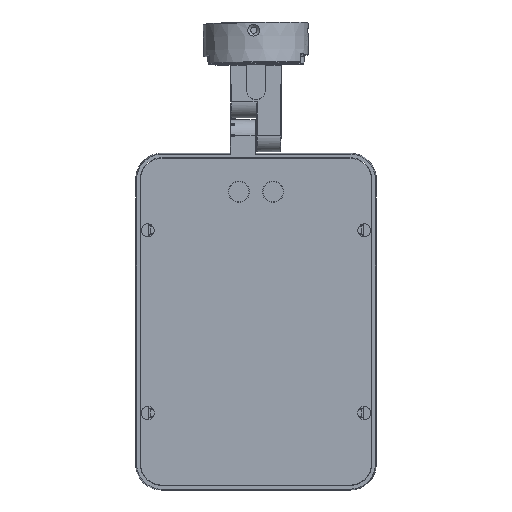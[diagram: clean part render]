
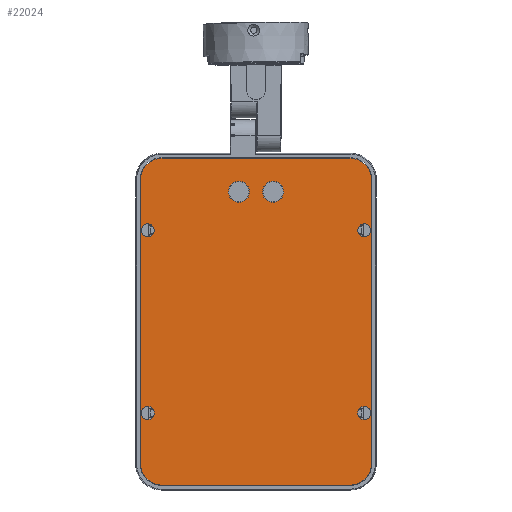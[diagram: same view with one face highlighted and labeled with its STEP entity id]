
A CAD part, front view. The second image highlights one B-rep face of the part: STEP entity #22024.
In plain terms, the highlighted planar face has unit normal (0, -1, 0).
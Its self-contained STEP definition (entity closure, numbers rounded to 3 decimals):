
#9723=CARTESIAN_POINT('',(67.5,0.5,57.));
#9724=DIRECTION('',(0.,-1.,0.));
#9725=DIRECTION('',(1.,0.,0.));
#9726=AXIS2_PLACEMENT_3D('',#9723,#9724,#9725);
#9728=CARTESIAN_POINT('',(67.5,0.5,57.));
#9729=DIRECTION('',(0.,-1.,0.));
#9730=DIRECTION('',(-1.,0.,0.));
#9731=AXIS2_PLACEMENT_3D('',#9728,#9729,#9730);
#9733=CARTESIAN_POINT('',(-67.5,0.5,-57.));
#9734=DIRECTION('',(0.,-1.,0.));
#9735=DIRECTION('',(-1.,0.,0.));
#9736=AXIS2_PLACEMENT_3D('',#9733,#9734,#9735);
#9738=CARTESIAN_POINT('',(-67.5,0.5,-57.));
#9739=DIRECTION('',(0.,-1.,0.));
#9740=DIRECTION('',(1.,0.,0.));
#9741=AXIS2_PLACEMENT_3D('',#9738,#9739,#9740);
#9743=CARTESIAN_POINT('',(-67.5,0.5,57.));
#9744=DIRECTION('',(0.,-1.,0.));
#9745=DIRECTION('',(1.,0.,0.));
#9746=AXIS2_PLACEMENT_3D('',#9743,#9744,#9745);
#9748=CARTESIAN_POINT('',(-67.5,0.5,57.));
#9749=DIRECTION('',(0.,-1.,0.));
#9750=DIRECTION('',(-1.,0.,0.));
#9751=AXIS2_PLACEMENT_3D('',#9748,#9749,#9750);
#9753=CARTESIAN_POINT('',(67.5,0.5,-57.));
#9754=DIRECTION('',(0.,-1.,0.));
#9755=DIRECTION('',(-1.,0.,0.));
#9756=AXIS2_PLACEMENT_3D('',#9753,#9754,#9755);
#9758=CARTESIAN_POINT('',(67.5,0.5,-57.));
#9759=DIRECTION('',(0.,-1.,0.));
#9760=DIRECTION('',(1.,0.,0.));
#9761=AXIS2_PLACEMENT_3D('',#9758,#9759,#9760);
#9763=CARTESIAN_POINT('',(58.5,0.5,-88.5));
#9764=DIRECTION('',(0.,1.,0.));
#9765=DIRECTION('',(1.,0.,0.));
#9766=AXIS2_PLACEMENT_3D('',#9763,#9764,#9765);
#9768=DIRECTION('',(-1.,0.,0.));
#9769=VECTOR('',#9768,117.);
#9770=CARTESIAN_POINT('',(58.5,0.5,-102.));
#9771=LINE('',#9770,#9769);
#9772=CARTESIAN_POINT('',(-58.5,0.5,-88.5));
#9773=DIRECTION('',(0.,1.,0.));
#9774=DIRECTION('',(0.,0.,-1.));
#9775=AXIS2_PLACEMENT_3D('',#9772,#9773,#9774);
#9777=DIRECTION('',(0.,0.,1.));
#9778=VECTOR('',#9777,177.);
#9779=CARTESIAN_POINT('',(-72.,0.5,-88.5));
#9780=LINE('',#9779,#9778);
#9781=CARTESIAN_POINT('',(-58.5,0.5,88.5));
#9782=DIRECTION('',(0.,1.,0.));
#9783=DIRECTION('',(-1.,0.,0.));
#9784=AXIS2_PLACEMENT_3D('',#9781,#9782,#9783);
#9786=DIRECTION('',(1.,0.,0.));
#9787=VECTOR('',#9786,117.);
#9788=CARTESIAN_POINT('',(-58.5,0.5,102.));
#9789=LINE('',#9788,#9787);
#9790=CARTESIAN_POINT('',(58.5,0.5,88.5));
#9791=DIRECTION('',(0.,1.,0.));
#9792=DIRECTION('',(0.,0.,1.));
#9793=AXIS2_PLACEMENT_3D('',#9790,#9791,#9792);
#9795=DIRECTION('',(0.,0.,-1.));
#9796=VECTOR('',#9795,177.);
#9797=CARTESIAN_POINT('',(72.,0.5,88.5));
#9798=LINE('',#9797,#9796);
#9799=CARTESIAN_POINT('',(-10.65,0.5,81.));
#9800=DIRECTION('',(0.,-1.,0.));
#9801=DIRECTION('',(1.,0.,0.));
#9802=AXIS2_PLACEMENT_3D('',#9799,#9800,#9801);
#9804=CARTESIAN_POINT('',(-10.65,0.5,81.));
#9805=DIRECTION('',(0.,-1.,0.));
#9806=DIRECTION('',(-1.,0.,0.));
#9807=AXIS2_PLACEMENT_3D('',#9804,#9805,#9806);
#9809=CARTESIAN_POINT('',(10.65,0.5,81.));
#9810=DIRECTION('',(0.,-1.,0.));
#9811=DIRECTION('',(1.,0.,0.));
#9812=AXIS2_PLACEMENT_3D('',#9809,#9810,#9811);
#9814=CARTESIAN_POINT('',(10.65,0.5,81.));
#9815=DIRECTION('',(0.,-1.,0.));
#9816=DIRECTION('',(-1.,0.,0.));
#9817=AXIS2_PLACEMENT_3D('',#9814,#9815,#9816);
#19258=CARTESIAN_POINT('',(71.55,0.5,57.));
#19259=CARTESIAN_POINT('',(63.45,0.5,57.));
#19260=VERTEX_POINT('',#19258);
#19261=VERTEX_POINT('',#19259);
#19262=CARTESIAN_POINT('',(58.5,0.5,-102.));
#19263=CARTESIAN_POINT('',(72.,0.5,-88.5));
#19264=VERTEX_POINT('',#19262);
#19265=VERTEX_POINT('',#19263);
#19266=CARTESIAN_POINT('',(72.,0.5,88.5));
#19267=VERTEX_POINT('',#19266);
#19268=CARTESIAN_POINT('',(58.5,0.5,102.));
#19269=VERTEX_POINT('',#19268);
#19270=CARTESIAN_POINT('',(-58.5,0.5,102.));
#19271=VERTEX_POINT('',#19270);
#19272=CARTESIAN_POINT('',(-72.,0.5,88.5));
#19273=VERTEX_POINT('',#19272);
#19274=CARTESIAN_POINT('',(-72.,0.5,-88.5));
#19275=VERTEX_POINT('',#19274);
#19276=CARTESIAN_POINT('',(-58.5,0.5,-102.));
#19277=VERTEX_POINT('',#19276);
#19294=CARTESIAN_POINT('',(-71.55,0.5,-57.));
#19295=CARTESIAN_POINT('',(-63.45,0.5,-57.));
#19296=VERTEX_POINT('',#19294);
#19297=VERTEX_POINT('',#19295);
#19298=CARTESIAN_POINT('',(-71.55,0.5,57.));
#19299=CARTESIAN_POINT('',(-63.45,0.5,57.));
#19300=VERTEX_POINT('',#19298);
#19301=VERTEX_POINT('',#19299);
#19302=CARTESIAN_POINT('',(71.55,0.5,-57.));
#19303=CARTESIAN_POINT('',(63.45,0.5,-57.));
#19304=VERTEX_POINT('',#19302);
#19305=VERTEX_POINT('',#19303);
#19577=CARTESIAN_POINT('',(-17.2,0.5,81.));
#19578=CARTESIAN_POINT('',(-4.1,0.5,81.));
#19579=VERTEX_POINT('',#19577);
#19580=VERTEX_POINT('',#19578);
#19581=CARTESIAN_POINT('',(4.1,0.5,81.));
#19582=CARTESIAN_POINT('',(17.2,0.5,81.));
#19583=VERTEX_POINT('',#19581);
#19584=VERTEX_POINT('',#19582);
#21965=CARTESIAN_POINT('',(0.,0.5,0.));
#21966=DIRECTION('',(0.,1.,0.));
#21967=DIRECTION('',(1.,0.,0.));
#21968=AXIS2_PLACEMENT_3D('',#21965,#21966,#21967);
#21969=PLANE('',#21968);
#21971=ORIENTED_EDGE('',*,*,#21970,.T.);
#21973=ORIENTED_EDGE('',*,*,#21972,.T.);
#21975=ORIENTED_EDGE('',*,*,#21974,.T.);
#21977=ORIENTED_EDGE('',*,*,#21976,.T.);
#21979=ORIENTED_EDGE('',*,*,#21978,.T.);
#21981=ORIENTED_EDGE('',*,*,#21980,.T.);
#21983=ORIENTED_EDGE('',*,*,#21982,.T.);
#21985=ORIENTED_EDGE('',*,*,#21984,.T.);
#21986=EDGE_LOOP('',(#21971,#21973,#21975,#21977,#21979,#21981,#21983,#21985));
#21987=FACE_OUTER_BOUND('',#21986,.F.);
#21989=ORIENTED_EDGE('',*,*,#21988,.T.);
#21991=ORIENTED_EDGE('',*,*,#21990,.T.);
#21992=EDGE_LOOP('',(#21989,#21991));
#21993=FACE_BOUND('',#21992,.F.);
#21995=ORIENTED_EDGE('',*,*,#21994,.T.);
#21997=ORIENTED_EDGE('',*,*,#21996,.T.);
#21998=EDGE_LOOP('',(#21995,#21997));
#21999=FACE_BOUND('',#21998,.F.);
#22001=ORIENTED_EDGE('',*,*,#22000,.T.);
#22003=ORIENTED_EDGE('',*,*,#22002,.T.);
#22004=EDGE_LOOP('',(#22001,#22003));
#22005=FACE_BOUND('',#22004,.F.);
#22007=ORIENTED_EDGE('',*,*,#22006,.T.);
#22009=ORIENTED_EDGE('',*,*,#22008,.T.);
#22010=EDGE_LOOP('',(#22007,#22009));
#22011=FACE_BOUND('',#22010,.F.);
#22013=ORIENTED_EDGE('',*,*,#22012,.T.);
#22015=ORIENTED_EDGE('',*,*,#22014,.T.);
#22016=EDGE_LOOP('',(#22013,#22015));
#22017=FACE_BOUND('',#22016,.F.);
#22019=ORIENTED_EDGE('',*,*,#22018,.T.);
#22021=ORIENTED_EDGE('',*,*,#22020,.T.);
#22022=EDGE_LOOP('',(#22019,#22021));
#22023=FACE_BOUND('',#22022,.F.);
#22024=ADVANCED_FACE('',(#21987,#21993,#21999,#22005,#22011,#22017,#22023),
#21969,.F.);
#9727=CIRCLE('',#9726,4.05);
#9732=CIRCLE('',#9731,4.05);
#9737=CIRCLE('',#9736,4.05);
#9742=CIRCLE('',#9741,4.05);
#9747=CIRCLE('',#9746,4.05);
#9752=CIRCLE('',#9751,4.05);
#9757=CIRCLE('',#9756,4.05);
#9762=CIRCLE('',#9761,4.05);
#9767=CIRCLE('',#9766,13.5);
#9776=CIRCLE('',#9775,13.5);
#9785=CIRCLE('',#9784,13.5);
#9794=CIRCLE('',#9793,13.5);
#9803=CIRCLE('',#9802,6.55);
#9808=CIRCLE('',#9807,6.55);
#9813=CIRCLE('',#9812,6.55);
#9818=CIRCLE('',#9817,6.55);
#21970=EDGE_CURVE('',#19265,#19264,#9767,.T.);
#21972=EDGE_CURVE('',#19264,#19277,#9771,.T.);
#21974=EDGE_CURVE('',#19277,#19275,#9776,.T.);
#21976=EDGE_CURVE('',#19275,#19273,#9780,.T.);
#21978=EDGE_CURVE('',#19273,#19271,#9785,.T.);
#21980=EDGE_CURVE('',#19271,#19269,#9789,.T.);
#21982=EDGE_CURVE('',#19269,#19267,#9794,.T.);
#21984=EDGE_CURVE('',#19267,#19265,#9798,.T.);
#21988=EDGE_CURVE('',#19296,#19297,#9737,.T.);
#21990=EDGE_CURVE('',#19297,#19296,#9742,.T.);
#21994=EDGE_CURVE('',#19301,#19300,#9747,.T.);
#21996=EDGE_CURVE('',#19300,#19301,#9752,.T.);
#22000=EDGE_CURVE('',#19305,#19304,#9757,.T.);
#22002=EDGE_CURVE('',#19304,#19305,#9762,.T.);
#22006=EDGE_CURVE('',#19260,#19261,#9727,.T.);
#22008=EDGE_CURVE('',#19261,#19260,#9732,.T.);
#22012=EDGE_CURVE('',#19580,#19579,#9803,.T.);
#22014=EDGE_CURVE('',#19579,#19580,#9808,.T.);
#22018=EDGE_CURVE('',#19584,#19583,#9813,.T.);
#22020=EDGE_CURVE('',#19583,#19584,#9818,.T.);
